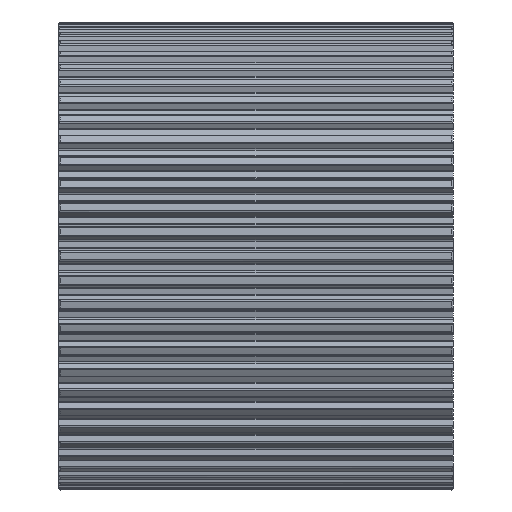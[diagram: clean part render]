
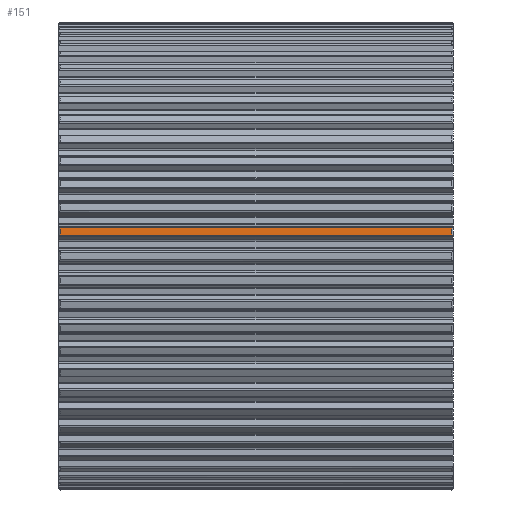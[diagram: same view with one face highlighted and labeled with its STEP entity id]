
A CAD part, front view. The second image highlights one B-rep face of the part: STEP entity #151.
In plain terms, the highlighted cylindrical face has radius 94.99 mm (diameter 189.98 mm), a partial arc.
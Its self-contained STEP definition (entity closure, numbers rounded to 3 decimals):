
#151=ADVANCED_FACE('',(#846),#847,.T.);
#846=FACE_OUTER_BOUND('',#2084,.T.);
#847=CYLINDRICAL_SURFACE('',#2085,94.99);
#2084=EDGE_LOOP('',(#3820,#3821,#3822,#3823));
#2085=AXIS2_PLACEMENT_3D('',#3824,#3825,#3826);
#3820=ORIENTED_EDGE('',*,*,#9095,.T.);
#3821=ORIENTED_EDGE('',*,*,#9096,.T.);
#3822=ORIENTED_EDGE('',*,*,#9097,.T.);
#3823=ORIENTED_EDGE('',*,*,#9098,.T.);
#3824=CARTESIAN_POINT('',(80.0,0.0,0.0));
#3825=DIRECTION('',(1.0,0.0,-0.0));
#3826=DIRECTION('',(0.0,0.105,0.995));
#9095=EDGE_CURVE('',#11308,#11317,#11319,.T.);
#9096=EDGE_CURVE('',#11317,#11320,#11321,.T.);
#9097=EDGE_CURVE('',#11320,#11322,#11323,.T.);
#9098=EDGE_CURVE('',#11322,#11308,#11324,.T.);
#11308=VERTEX_POINT('',#16542);
#11317=VERTEX_POINT('',#16578);
#11319=CIRCLE('',#16589,94.99);
#11320=VERTEX_POINT('',#16590);
#11321=LINE('',#16591,#16592);
#11322=VERTEX_POINT('',#16593);
#11323=CIRCLE('',#16594,94.99);
#11324=LINE('',#16595,#16596);
#16542=CARTESIAN_POINT('',(0.5,-94.304,11.396));
#16578=CARTESIAN_POINT('',(0.5,-94.613,8.46));
#16589=AXIS2_PLACEMENT_3D('',#22137,#22138,#22139);
#16590=CARTESIAN_POINT('',(159.5,-94.613,8.46));
#16591=CARTESIAN_POINT('',(80.0,-94.613,8.46));
#16592=VECTOR('',#22140,1.0);
#16593=CARTESIAN_POINT('',(159.5,-94.304,11.396));
#16594=AXIS2_PLACEMENT_3D('',#22141,#22142,#22143);
#16595=CARTESIAN_POINT('',(80.0,-94.304,11.396));
#16596=VECTOR('',#22144,1.0);
#22137=CARTESIAN_POINT('',(0.5,0.0,0.0));
#22138=DIRECTION('',(1.0,0.0,0.));
#22139=DIRECTION('',(0.,0.105,0.995));
#22140=DIRECTION('',(1.0,0.0,0.0));
#22141=CARTESIAN_POINT('',(159.5,0.0,0.0));
#22142=DIRECTION('',(-1.0,0.0,0.0));
#22143=DIRECTION('',(0.0,0.105,0.995));
#22144=DIRECTION('',(-1.0,0.0,0.0));
